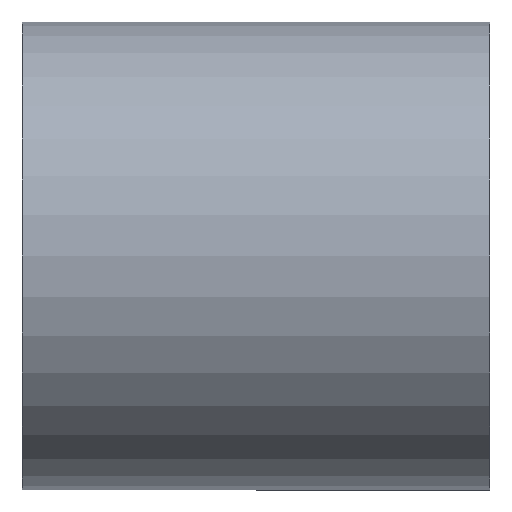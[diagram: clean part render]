
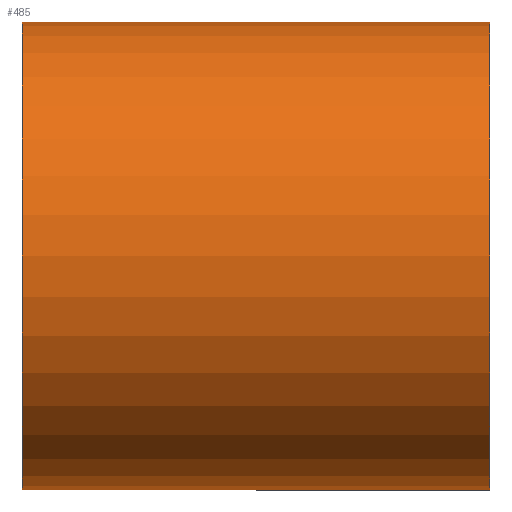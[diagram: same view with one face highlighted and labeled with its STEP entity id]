
A CAD part, front view. The second image highlights one B-rep face of the part: STEP entity #485.
In plain terms, the highlighted cylindrical face has radius 15 mm (diameter 30 mm), a partial arc.
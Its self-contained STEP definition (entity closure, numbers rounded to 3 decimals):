
#32 = LINE ( 'NONE', #246, #348 ) ;
#46 = DIRECTION ( 'NONE',  ( 0., 0., 1. ) ) ;
#68 = CIRCLE ( 'NONE', #310, 15. ) ;
#90 = CARTESIAN_POINT ( 'NONE',  ( -15., 0., -15. ) ) ;
#95 = CARTESIAN_POINT ( 'NONE',  ( 15., 0., 0. ) ) ;
#105 = CARTESIAN_POINT ( 'NONE',  ( 15., 0., -15. ) ) ;
#106 = ORIENTED_EDGE ( 'NONE', *, *, #143, .F. ) ;
#111 = DIRECTION ( 'NONE',  ( -1., 0., 0. ) ) ;
#120 = AXIS2_PLACEMENT_3D ( 'NONE', #389, #275, #613 ) ;
#143 = EDGE_CURVE ( 'NONE', #152, #607, #32, .T. ) ;
#151 = CARTESIAN_POINT ( 'NONE',  ( -15., 0., 15. ) ) ;
#152 = VERTEX_POINT ( 'NONE', #105 ) ;
#183 = DIRECTION ( 'NONE',  ( -1., 0., 0. ) ) ;
#187 = CYLINDRICAL_SURFACE ( 'NONE', #120, 15. ) ;
#229 = VERTEX_POINT ( 'NONE', #151 ) ;
#246 = CARTESIAN_POINT ( 'NONE',  ( 0., 0., -15. ) ) ;
#248 = EDGE_CURVE ( 'NONE', #607, #229, #68, .T. ) ;
#254 = EDGE_CURVE ( 'NONE', #360, #229, #728, .T. ) ;
#267 = DIRECTION ( 'NONE',  ( -1., 0., 0. ) ) ;
#268 = ORIENTED_EDGE ( 'NONE', *, *, #248, .F. ) ;
#275 = DIRECTION ( 'NONE',  ( -1., 0., 0. ) ) ;
#299 = ORIENTED_EDGE ( 'NONE', *, *, #677, .T. ) ;
#310 = AXIS2_PLACEMENT_3D ( 'NONE', #436, #267, #46 ) ;
#321 = CIRCLE ( 'NONE', #433, 15. ) ;
#348 = VECTOR ( 'NONE', #683, 1000. ) ;
#360 = VERTEX_POINT ( 'NONE', #580 ) ;
#389 = CARTESIAN_POINT ( 'NONE',  ( 0., 0., 0. ) ) ;
#433 = AXIS2_PLACEMENT_3D ( 'NONE', #95, #183, #653 ) ;
#436 = CARTESIAN_POINT ( 'NONE',  ( -15., 0., 0. ) ) ;
#485 = ADVANCED_FACE ( 'NONE', ( #709 ), #187, .T. ) ;
#491 = EDGE_LOOP ( 'NONE', ( #106, #299, #611, #268 ) ) ;
#542 = VECTOR ( 'NONE', #111, 1000. ) ;
#580 = CARTESIAN_POINT ( 'NONE',  ( 15., 0., 15. ) ) ;
#607 = VERTEX_POINT ( 'NONE', #90 ) ;
#611 = ORIENTED_EDGE ( 'NONE', *, *, #254, .T. ) ;
#613 = DIRECTION ( 'NONE',  ( 0., 0., 1. ) ) ;
#615 = CARTESIAN_POINT ( 'NONE',  ( 0., 0., 15. ) ) ;
#653 = DIRECTION ( 'NONE',  ( 0., 0., 1. ) ) ;
#677 = EDGE_CURVE ( 'NONE', #152, #360, #321, .T. ) ;
#683 = DIRECTION ( 'NONE',  ( -1., 0., 0. ) ) ;
#709 = FACE_OUTER_BOUND ( 'NONE', #491, .T. ) ;
#728 = LINE ( 'NONE', #615, #542 ) ;
